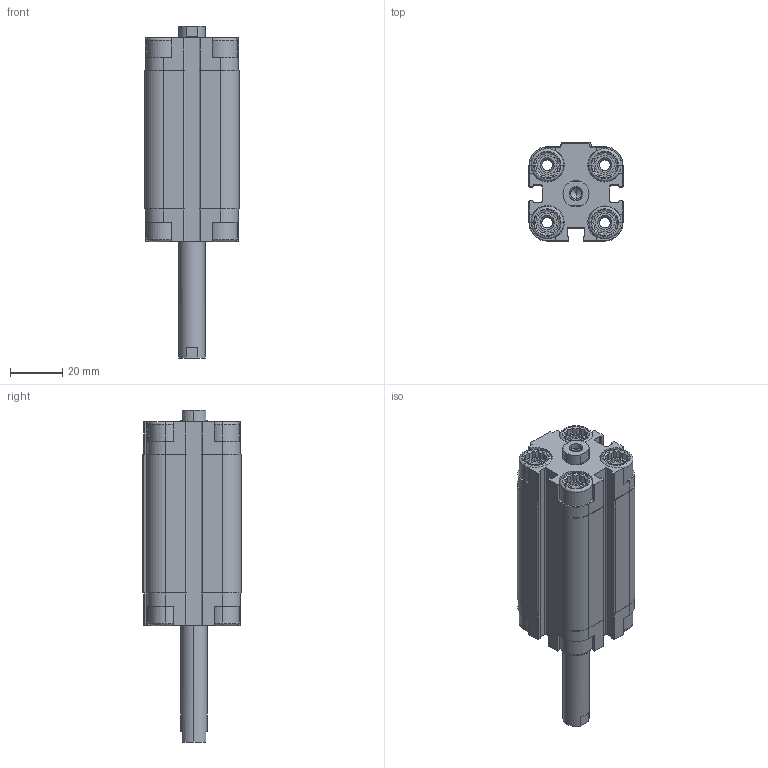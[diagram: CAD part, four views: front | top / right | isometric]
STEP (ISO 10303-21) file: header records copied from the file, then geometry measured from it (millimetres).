
FILE_DESCRIPTION (( 'STEP AP203' ), '1' );
FILE_NAME ('CDVU20-40F-P.STEP', '2020-07-24T18:07:16', ( '' ), ( '' ), 'SwSTEP 2.0', 'SolidWorks 2019', '' );
FILE_SCHEMA (( 'CONFIG_CONTROL_DESIGN' ));
Length unit declared in the file: millimetre
Products named in the file (1): CDVU20-40F-P
Bounding box: 36 x 37.5 x 127 mm (x, y, z)
Volume: 71843.5 mm3; surface area: 34834.2 mm2
Topology: 2 solids, 2 shells, 606 faces, 1598 edges, 1032 vertices
Faces by surface type: plane 358, cylinder 184, cone 48, torus 16
Entity records: 18877 total; most frequent: CARTESIAN_POINT 3805, ORIENTED_EDGE 3180, DIRECTION 3060, EDGE_CURVE 1590, AXIS2_PLACEMENT_3D 1055, VERTEX_POINT 1032, LINE 950, VECTOR 950
